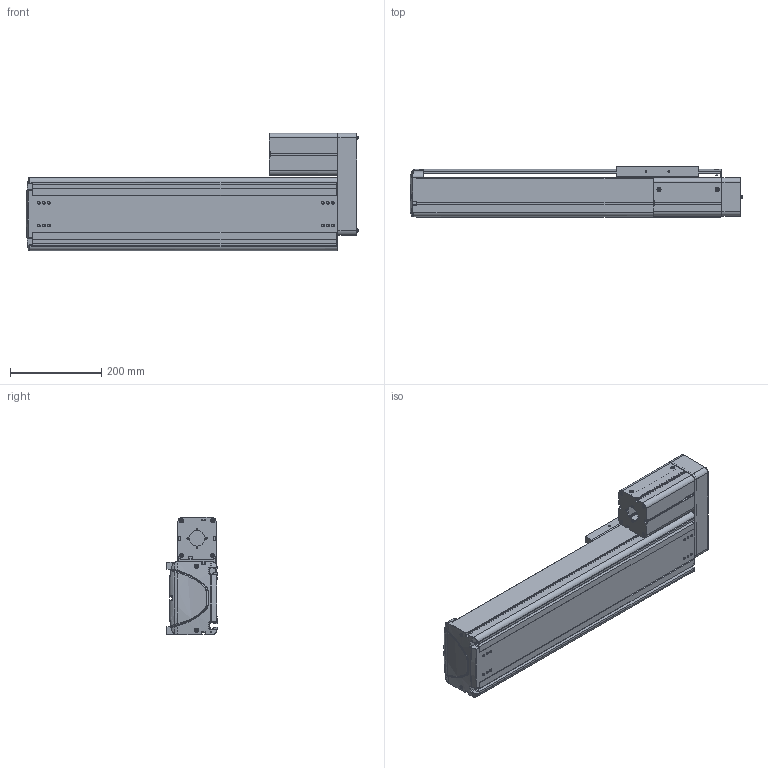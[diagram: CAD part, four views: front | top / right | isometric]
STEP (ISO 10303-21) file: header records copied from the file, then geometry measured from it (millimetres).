
FILE_DESCRIPTION((''),'2;1');
FILE_NAME('BE50F-UR-M_N-40_IGS_PRT','2017-06-18T',(' '),(''),'PRO/ENGINEER BY PARAMETRIC TECHNOLOGY CORPORATION, 2015030','PRO/ENGINEER BY PARAMETRIC TECHNOLOGY CORPORATION, 2015030','');
FILE_SCHEMA(('CONFIG_CONTROL_DESIGN'));
Length unit declared in the file: millimetre
Products named in the file (1): BE50F-UR-M_N-40_IGS_PRT
Bounding box: 725.88 x 110 x 257 mm (x, y, z)
Volume: 3734570.5 mm3; surface area: 1387613.6 mm2
Topology: 2 solids, 111 shells, 2115 faces, 5684 edges, 3698 vertices
Faces by surface type: plane 996, cylinder 865, cone 111, torus 59, bspline 52, sphere 32
Entity records: 69381 total; most frequent: CARTESIAN_POINT 15647, DIRECTION 11318, ORIENTED_EDGE 10892, EDGE_CURVE 5650, AXIS2_PLACEMENT_3D 4013, VERTEX_POINT 3698, VECTOR 3292, LINE 3292
